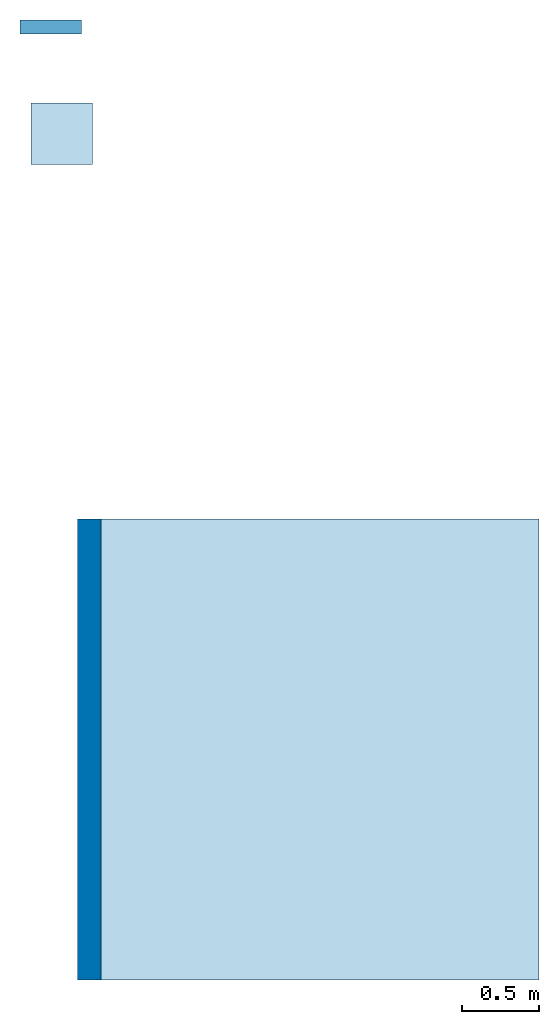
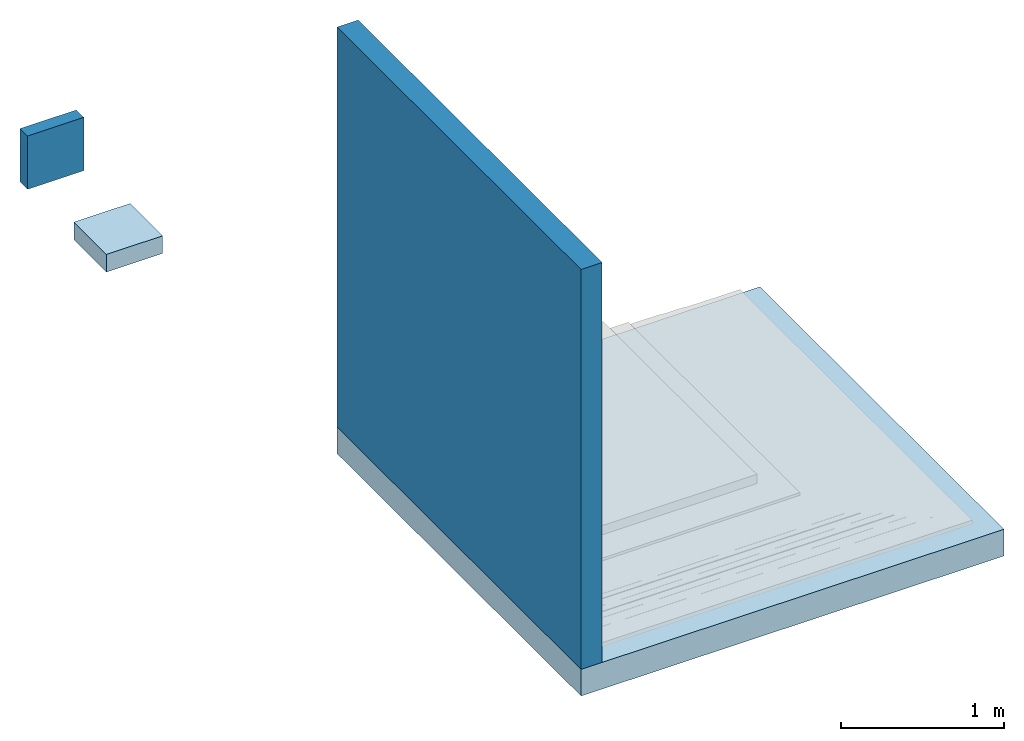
# One storey, incomplete: 2 slabs, 2 walls.
"""IFC2X3 building model written with IfcOpenShell, lengths in metres."""

from ifc_helpers import new_model, entity, si_unit, converted_unit, derived_unit, direction, frame, frame_2d, origin, origin_2d_with_axis, place, context, subcontext, project, spatial, rectangle, extrude, material, layer, layer_set, layer_usage, type_object, element, save


model = new_model("IFC2X3")

# Units and contexts
model_context = context("Model", 3, precision=1e-05, world=origin(), true_north=direction((6.123031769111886e-17, 1.0)))
body_context = subcontext(model_context, "Body", "Model", "MODEL_VIEW")
ifc_project = project(units=[si_unit("LENGTHUNIT", "METRE"), si_unit("AREAUNIT", "SQUARE_METRE"), si_unit("VOLUMEUNIT", "CUBIC_METRE"), converted_unit("PLANEANGLEUNIT", "DEGREE", entity("IfcRatioMeasure", 0.017453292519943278), si_unit("PLANEANGLEUNIT", "RADIAN"), dimensions=[0, 0, 0, 0, 0, 0, 0]), si_unit("MASSUNIT", "GRAM", prefix="KILO"), derived_unit("MASSDENSITYUNIT", [(si_unit("MASSUNIT", "GRAM", prefix="KILO"), 1), (si_unit("LENGTHUNIT", "METRE"), -3)]), derived_unit("IONCONCENTRATIONUNIT", [(si_unit("MASSUNIT", "GRAM", prefix="KILO"), 1), (si_unit("LENGTHUNIT", "METRE"), -3)]), derived_unit("MOMENTOFINERTIAUNIT", [(si_unit("LENGTHUNIT", "METRE"), 4)]), si_unit("TIMEUNIT", "SECOND"), si_unit("FREQUENCYUNIT", "HERTZ"), si_unit("THERMODYNAMICTEMPERATUREUNIT", "DEGREE_CELSIUS"), derived_unit("THERMALTRANSMITTANCEUNIT", [(si_unit("MASSUNIT", "GRAM", prefix="KILO"), 1), (si_unit("THERMODYNAMICTEMPERATUREUNIT", "KELVIN"), -1), (si_unit("TIMEUNIT", "SECOND"), -3)]), derived_unit("THERMALCONDUCTANCEUNIT", [(si_unit("MASSUNIT", "GRAM", prefix="KILO"), 1), (si_unit("THERMODYNAMICTEMPERATUREUNIT", "KELVIN"), -1), (si_unit("TIMEUNIT", "SECOND"), -3), (si_unit("LENGTHUNIT", "METRE"), 1)]), derived_unit("VOLUMETRICFLOWRATEUNIT", [(si_unit("LENGTHUNIT", "METRE"), 3), (si_unit("TIMEUNIT", "SECOND"), -1)]), derived_unit("MASSFLOWRATEUNIT", [(si_unit("MASSUNIT", "GRAM", prefix="KILO"), 1), (si_unit("TIMEUNIT", "SECOND"), -1)]), derived_unit("ROTATIONALFREQUENCYUNIT", [(si_unit("TIMEUNIT", "SECOND"), -1)]), si_unit("ELECTRICCURRENTUNIT", "AMPERE"), si_unit("ELECTRICVOLTAGEUNIT", "VOLT"), si_unit("POWERUNIT", "WATT"), si_unit("FORCEUNIT", "NEWTON", prefix="KILO"), si_unit("ILLUMINANCEUNIT", "LUX"), si_unit("LUMINOUSFLUXUNIT", "LUMEN"), si_unit("LUMINOUSINTENSITYUNIT", "CANDELA"), derived_unit("USERDEFINED", [(si_unit("MASSUNIT", "GRAM", prefix="KILO"), -1), (si_unit("LENGTHUNIT", "METRE"), -2), (si_unit("TIMEUNIT", "SECOND"), 3), (si_unit("LUMINOUSFLUXUNIT", "LUMEN"), 1)]), derived_unit("USERDEFINED", [(si_unit("MASSUNIT", "GRAM", prefix="KILO"), 1), (si_unit("TIMEUNIT", "SECOND"), -3), (si_unit("LENGTHUNIT", "METRE"), 3), (si_unit("ELECTRICCURRENTUNIT", "AMPERE"), -2)]), derived_unit("SOUNDPOWERUNIT", [(si_unit("MASSUNIT", "GRAM", prefix="KILO"), 1), (si_unit("TIMEUNIT", "SECOND"), -3), (si_unit("LENGTHUNIT", "METRE"), 2)]), derived_unit("SOUNDPRESSUREUNIT", [(si_unit("MASSUNIT", "GRAM", prefix="KILO"), 1), (si_unit("LENGTHUNIT", "METRE"), -1), (si_unit("TIMEUNIT", "SECOND"), -2)]), derived_unit("LINEARVELOCITYUNIT", [(si_unit("LENGTHUNIT", "METRE"), 1), (si_unit("TIMEUNIT", "SECOND"), -1)]), si_unit("PRESSUREUNIT", "PASCAL"), derived_unit("USERDEFINED", [(si_unit("MASSUNIT", "GRAM", prefix="KILO"), 1), (si_unit("LENGTHUNIT", "METRE"), -2), (si_unit("TIMEUNIT", "SECOND"), -2)]), derived_unit("LINEARFORCEUNIT", [(si_unit("MASSUNIT", "GRAM", prefix="KILO"), 1), (si_unit("TIMEUNIT", "SECOND"), -2)]), derived_unit("PLANARFORCEUNIT", [(si_unit("MASSUNIT", "GRAM", prefix="KILO"), 1), (si_unit("LENGTHUNIT", "METRE"), -1), (si_unit("TIMEUNIT", "SECOND"), -2)]), derived_unit("SPECIFICHEATCAPACITYUNIT", [(si_unit("THERMODYNAMICTEMPERATUREUNIT", "KELVIN"), -1), (si_unit("LENGTHUNIT", "METRE"), 2), (si_unit("TIMEUNIT", "SECOND"), -2)]), derived_unit("HEATINGVALUEUNIT", [(si_unit("LENGTHUNIT", "METRE"), 2), (si_unit("TIMEUNIT", "SECOND"), -2)]), derived_unit("VAPORPERMEABILITYUNIT", [(si_unit("LENGTHUNIT", "METRE"), -1), (si_unit("TIMEUNIT", "SECOND"), 1)]), derived_unit("DYNAMICVISCOSITYUNIT", [(si_unit("MASSUNIT", "GRAM", prefix="KILO"), 1), (si_unit("TIMEUNIT", "SECOND"), -1), (si_unit("LENGTHUNIT", "METRE"), -1)]), derived_unit("THERMALEXPANSIONCOEFFICIENTUNIT", [(si_unit("THERMODYNAMICTEMPERATUREUNIT", "KELVIN"), -1)]), derived_unit("MODULUSOFELASTICITYUNIT", [(si_unit("MASSUNIT", "GRAM", prefix="KILO"), 1), (si_unit("LENGTHUNIT", "METRE"), -1), (si_unit("TIMEUNIT", "SECOND"), -2)]), derived_unit("ISOTHERMALMOISTURECAPACITYUNIT", [(si_unit("LENGTHUNIT", "METRE"), 3), (si_unit("MASSUNIT", "GRAM", prefix="KILO"), -1)]), derived_unit("MOISTUREDIFFUSIVITYUNIT", [(si_unit("TIMEUNIT", "SECOND"), -1), (si_unit("LENGTHUNIT", "METRE"), 2)])], contexts=[model_context])

# Site, building, storey
site_placement = place(None, origin())
site = spatial("IfcSite", under=ifc_project, at=site_placement, Name="Default", CompositionType="ELEMENT")
building_placement = place(site_placement, origin())
building = spatial("IfcBuilding", under=site, at=building_placement, CompositionType="ELEMENT")
storey_placement = place(building_placement, frame((0.0, 0.0, -0.0025237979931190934)))
storey = spatial("IfcBuildingStorey", under=building, at=storey_placement, Name="ARQ Térreo", CompositionType="ELEMENT", Elevation=-0.0025237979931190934)

# Slabs
ifc_material_1 = material(Name="#concreto")
ifc_layer_1 = layer(ifc_material_1, 0.2)
ifc_layer_set_1 = layer_set([ifc_layer_1], Name="Piso:Piso:LAJE CONCRETO")
ifc_layer_usage_1 = layer_usage(ifc_layer_set_1, "AXIS3", "POSITIVE", 0.0)
slab_type_1 = type_object("IfcSlabType", Name="Piso:Piso:LAJE CONCRETO", PredefinedType="FLOOR", material=ifc_layer_set_1)
slab_1_placement = place(storey_placement, origin())
element("IfcSlab", 1, at=slab_1_placement, inside=storey, type_object=slab_type_1, material=ifc_layer_usage_1, Name="Piso:Piso:LAJE CONCRETO", ObjectType="Piso:Piso:LAJE CONCRETO", PredefinedType="FLOOR", context=body_context, shape_type="SweptSolid", body=[
    extrude(rectangle(XDim=3.0, YDim=3.001000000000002, at=origin_2d_with_axis()), frame((0.9975295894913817, -1.354129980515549, -0.0010000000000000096), z_axis=(0.0, 0.0, -1.0), x_axis=(0.0, 1.0, 0.0)), (0.0, 0.0, 1.0), 0.2),
])
ifc_material_2 = material(Name="#proteção mecânica")
ifc_layer_2 = layer(ifc_material_2, 0.07)
ifc_material_3 = material(Name="#camada amortecedora")
ifc_layer_3 = layer(ifc_material_3, 0.02)
ifc_material_4 = material(Name="#Asfalto Modificado NBR II")
ifc_layer_4 = layer(ifc_material_4, 0.0009999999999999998)
ifc_material_5 = material(Name="# Torodin Extra 4mm - TIPO IV - Classe A")
ifc_layer_5 = layer(ifc_material_5, 0.003999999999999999)
ifc_layer_6 = layer(ifc_material_4, 0.0009999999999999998)
ifc_material_6 = material(Name="# Torodin 4mm - TIPO III - Classe A")
ifc_layer_7 = layer(ifc_material_6, 0.003999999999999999)
ifc_layer_8 = layer(ifc_material_4, 0.0009999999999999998)
ifc_material_7 = material(Name="#Primer Adeflex")
ifc_layer_9 = layer(ifc_material_7, 0.0009999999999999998)
ifc_material_8 = material(Name="#argamassa")
ifc_layer_10 = layer(ifc_material_8, 0.03)
ifc_layer_set_2 = layer_set([ifc_layer_2, ifc_layer_3, ifc_layer_4, ifc_layer_5, ifc_layer_6, ifc_layer_7, ifc_layer_8, ifc_layer_9, ifc_layer_10], Name="Piso:IMPH_T4AA+TEXTRA4AA")
ifc_layer_usage_2 = layer_usage(ifc_layer_set_2, "AXIS3", "POSITIVE", 0.0)
slab_type_2 = type_object("IfcSlabType", Name="Piso:IMPH_T4AA+TEXTRA4AA", PredefinedType="FLOOR", material=ifc_layer_set_2)
slab_2_placement = place(storey_placement, origin())
element("IfcSlab", 2, at=slab_2_placement, inside=storey, type_object=slab_type_2, material=ifc_layer_usage_2, Name="Piso:IMPH_T4AA+TEXTRA4AA", ObjectType="Piso:IMPH_T4AA+TEXTRA4AA", PredefinedType="FLOOR", context=body_context, shape_type="SweptSolid", body=[
    extrude(rectangle(XDim=0.4, YDim=0.4, at=origin_2d_with_axis()), frame((-0.6075879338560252, 2.653207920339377, 0.0), z_axis=(0.0, 0.0, -1.0), x_axis=(0.0, 1.0, 0.0)), (0.0, 0.0, 1.0), 0.13199999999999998),
])

# Walls
ifc_layer_11 = layer(ifc_material_1, 0.14999999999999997)
ifc_layer_set_3 = layer_set([ifc_layer_11], Name="Parede básica:Parede básica:Parede Concreto")
ifc_layer_usage_3 = layer_usage(ifc_layer_set_3, "AXIS2", "NEGATIVE", 0.07499999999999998)
wall_type_1 = type_object("IfcWallType", Name="Parede básica:Parede básica:Parede Concreto", PredefinedType="STANDARD", material=ifc_layer_set_3)
wall_1_placement = place(storey_placement, frame((-0.4279704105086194, 0.14587001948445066, -0.000999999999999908), z_axis=(0.0, 0.0, 1.0), x_axis=(0.0, -1.0, 0.0)))
element("IfcWallStandardCase", 3, at=wall_1_placement, inside=storey, type_object=wall_type_1, material=ifc_layer_usage_3, Name="Parede básica:Parede Concreto", ObjectType="Parede básica:Parede Concreto", context=body_context, shape_type="SweptSolid", body=[
    extrude(rectangle(XDim=2.9999999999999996, YDim=0.15000000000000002, at=frame_2d((1.4999999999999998, 0.0), x_axis=(-1.0, 0.0))), origin(), (0.0, 0.0, 1.0), 2.9999999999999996),
])
ifc_layer_12 = layer(ifc_material_2, 0.07)
ifc_layer_13 = layer(ifc_material_4, 0.0009999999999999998)
ifc_layer_14 = layer(ifc_material_5, 0.003999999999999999)
ifc_layer_15 = layer(ifc_material_4, 0.0009999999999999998)
ifc_layer_16 = layer(ifc_material_6, 0.003999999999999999)
ifc_layer_17 = layer(ifc_material_4, 0.0009999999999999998)
ifc_layer_18 = layer(ifc_material_7, 0.0009999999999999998)
ifc_layer_19 = layer(ifc_material_8, 0.01)
ifc_layer_set_4 = layer_set([ifc_layer_12, ifc_layer_13, ifc_layer_14, ifc_layer_15, ifc_layer_16, ifc_layer_17, ifc_layer_18, ifc_layer_19], Name="Parede básica:IMPV_T4AA+TEXTRA4AA")
ifc_layer_usage_4 = layer_usage(ifc_layer_set_4, "AXIS2", "NEGATIVE", 0.046)
wall_type_2 = type_object("IfcWallType", Name="Parede básica:IMPV_T4AA+TEXTRA4AA", PredefinedType="STANDARD", material=ifc_layer_set_4)
wall_2_placement = place(storey_placement, frame((-0.47845796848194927, 3.345870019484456, 0.0), z_axis=(0.0, 0.0, 1.0), x_axis=(-1.0, 0.0, 0.0)))
element("IfcWallStandardCase", 4, at=wall_2_placement, inside=storey, type_object=wall_type_2, material=ifc_layer_usage_4, Name="Parede básica:IMPV_T4PP", ObjectType="Parede básica:IMPV_T4PP", context=body_context, shape_type="SweptSolid", body=[
    extrude(rectangle(XDim=0.4, YDim=0.09199999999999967, at=frame_2d((0.2, 0.0), x_axis=(-1.0, 0.0))), origin(), (0.0, 0.0, 1.0), 0.4),
])

save(model, "model.ifc")
